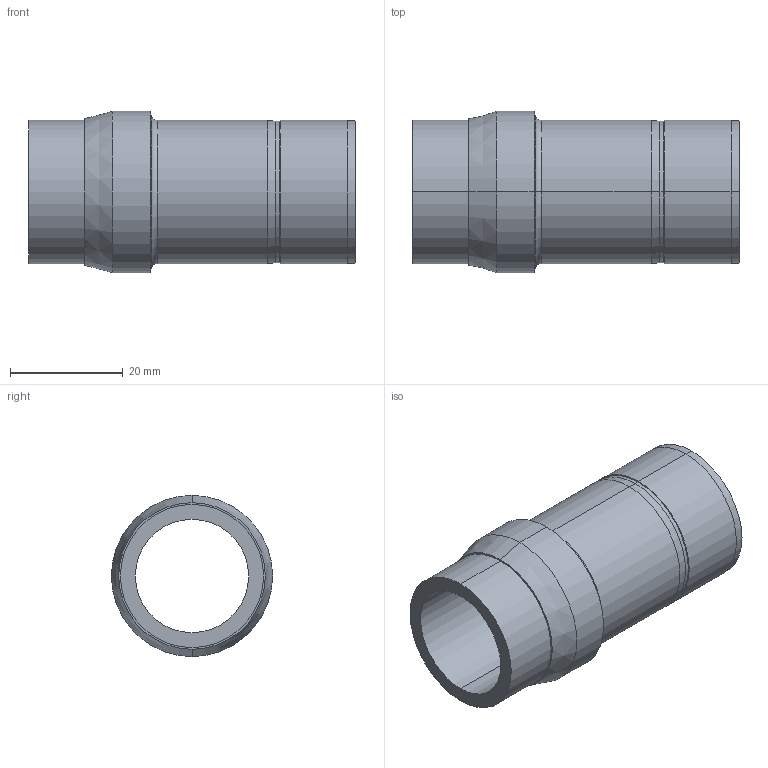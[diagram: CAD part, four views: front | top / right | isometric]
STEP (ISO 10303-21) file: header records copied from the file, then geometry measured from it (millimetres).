
FILE_DESCRIPTION (( 'STEP AP203' ), '1' );
FILE_NAME ('DPC16-16 SS.STEP', '2009-09-08T08:33:49', ( ' ' ), ( '' ), 'SwSTEP 2.0', 'SolidWorks 2008', '' );
FILE_SCHEMA (( 'CONFIG_CONTROL_DESIGN' ));
Length unit declared in the file: millimetre
Products named in the file (1): DPC16-16 SS
Bounding box: 58 x 28.6 x 28.6 mm (x, y, z)
Volume: 12296.5 mm3; surface area: 8890.7 mm2
Topology: 1 solids, 1 shells, 27 faces, 54 edges, 30 vertices
Faces by surface type: cylinder 12, cone 10, plane 3, torus 2
Entity records: 777 total; most frequent: DIRECTION 142, CARTESIAN_POINT 112, ORIENTED_EDGE 108, AXIS2_PLACEMENT_3D 60, EDGE_CURVE 54, CIRCLE 32, EDGE_LOOP 30, VERTEX_POINT 30
